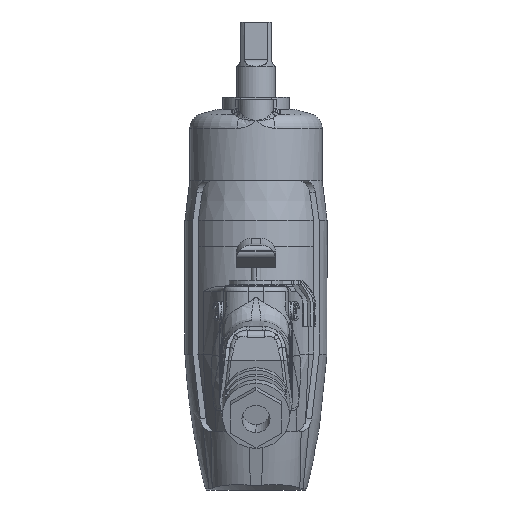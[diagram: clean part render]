
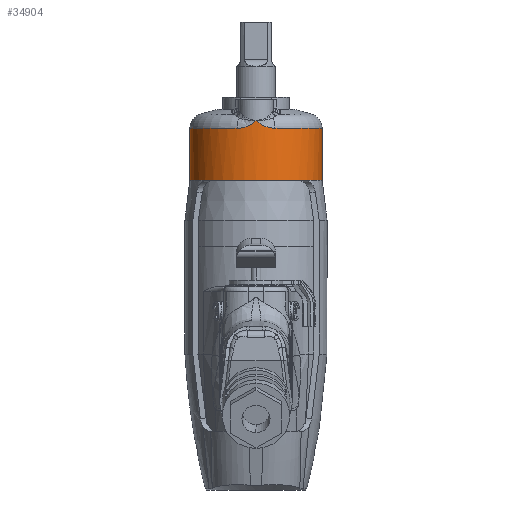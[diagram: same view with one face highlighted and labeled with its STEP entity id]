
A CAD part, front view. The second image highlights one B-rep face of the part: STEP entity #34904.
In plain terms, the highlighted cylindrical face has radius 27 mm (diameter 54 mm), a partial arc.
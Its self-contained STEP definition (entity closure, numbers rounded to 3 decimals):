
#392 = VERTEX_POINT ( 'NONE', #434 ) ;
#434 = CARTESIAN_POINT ( 'NONE',  ( 7.674, -25.886, -35.351 ) ) ;
#1314 = ORIENTED_EDGE ( 'NONE', *, *, #11314, .T. ) ;
#1485 = CARTESIAN_POINT ( 'NONE',  ( 1.12, -26.983, -33.17 ) ) ;
#3642 = EDGE_CURVE ( 'NONE', #16059, #392, #32485, .T. ) ;
#4606 = CARTESIAN_POINT ( 'NONE',  ( -3.931, -26.714, -34.664 ) ) ;
#4879 = CARTESIAN_POINT ( 'NONE',  ( 0., 0., -35.351 ) ) ;
#5690 = EDGE_CURVE ( 'NONE', #17164, #38976, #33186, .T. ) ;
#5910 = CARTESIAN_POINT ( 'NONE',  ( 7.674, -25.886, -35.351 ) ) ;
#6104 = CARTESIAN_POINT ( 'NONE',  ( 0., -27., -32.281 ) ) ;
#6216 = DIRECTION ( 'NONE',  ( 0., 0., 1. ) ) ;
#6702 = EDGE_LOOP ( 'NONE', ( #9139, #1314, #20864, #37239, #52283, #40648, #38603 ) ) ;
#9139 = ORIENTED_EDGE ( 'NONE', *, *, #50025, .F. ) ;
#9229 = CARTESIAN_POINT ( 'NONE',  ( -4.937, -26.547, -34.988 ) ) ;
#9533 = DIRECTION ( 'NONE',  ( 1., 0., 0. ) ) ;
#9626 = CARTESIAN_POINT ( 'NONE',  ( -27., 0., -22.7 ) ) ;
#10533 = CARTESIAN_POINT ( 'NONE',  ( 6.988, -26.082, -35.333 ) ) ;
#10538 = B_SPLINE_CURVE_WITH_KNOTS ( 'NONE', 3,
 ( #5910, #56458, #10533, #42799, #15202, #47381, #19855, #52026, #24505, #56655, #29128, #1485, #33751, #6104 ),
 .UNSPECIFIED., .F., .F.,
 ( 4, 2, 2, 2, 2, 2, 4 ),
 ( 0., 0.001, 0.002, 0.004, 0.005, 0.006, 0.009 ),
 .UNSPECIFIED. ) ;
#10955 = LINE ( 'NONE', #34985, #46281 ) ;
#11314 = EDGE_CURVE ( 'NONE', #41052, #44322, #13539, .T. ) ;
#12414 = B_SPLINE_CURVE_WITH_KNOTS ( 'NONE', 3,
 ( #23006, #54975, #27637, #33080, #32248, #4606, #36902, #9229, #41488, #13899, #46110, #18537 ),
 .UNSPECIFIED., .F., .F.,
 ( 4, 2, 2, 2, 2, 4 ),
 ( 0., 0.002, 0.004, 0.005, 0.006, 0.009 ),
 .UNSPECIFIED. ) ;
#13539 = CIRCLE ( 'NONE', #32242, 27. ) ;
#13899 = CARTESIAN_POINT ( 'NONE',  ( -6.297, -26.265, -35.28 ) ) ;
#15202 = CARTESIAN_POINT ( 'NONE',  ( 5.956, -26.337, -35.211 ) ) ;
#15361 = CARTESIAN_POINT ( 'NONE',  ( 0., 0., -22.7 ) ) ;
#16059 = VERTEX_POINT ( 'NONE', #48696 ) ;
#17164 = VERTEX_POINT ( 'NONE', #23849 ) ;
#18419 = EDGE_CURVE ( 'NONE', #44322, #16059, #10955, .T. ) ;
#18537 = CARTESIAN_POINT ( 'NONE',  ( -7.674, -25.886, -35.351 ) ) ;
#19855 = CARTESIAN_POINT ( 'NONE',  ( 4.263, -26.669, -34.8 ) ) ;
#19995 = DIRECTION ( 'NONE',  ( 1., 0., 0. ) ) ;
#20864 = ORIENTED_EDGE ( 'NONE', *, *, #18419, .T. ) ;
#23006 = CARTESIAN_POINT ( 'NONE',  ( 0., -27., -32.281 ) ) ;
#23849 = CARTESIAN_POINT ( 'NONE',  ( -7.674, -25.886, -35.351 ) ) ;
#24505 = CARTESIAN_POINT ( 'NONE',  ( 2.96, -26.839, -34.248 ) ) ;
#24684 = VERTEX_POINT ( 'NONE', #53556 ) ;
#25332 = DIRECTION ( 'NONE',  ( 0., 0., -1. ) ) ;
#25353 = CARTESIAN_POINT ( 'NONE',  ( -27., 0., -35.351 ) ) ;
#26711 = CARTESIAN_POINT ( 'NONE',  ( 0., 0., -56.589 ) ) ;
#27637 = CARTESIAN_POINT ( 'NONE',  ( -1.12, -26.983, -33.17 ) ) ;
#29128 = CARTESIAN_POINT ( 'NONE',  ( 2.023, -26.926, -33.742 ) ) ;
#31330 = DIRECTION ( 'NONE',  ( -1., 0., 0. ) ) ;
#32242 = AXIS2_PLACEMENT_3D ( 'NONE', #26711, #58859, #31330 ) ;
#32248 = CARTESIAN_POINT ( 'NONE',  ( -2.953, -26.846, -34.263 ) ) ;
#32485 = CIRCLE ( 'NONE', #55138, 27. ) ;
#33080 = CARTESIAN_POINT ( 'NONE',  ( -2.325, -26.907, -33.933 ) ) ;
#33186 = CIRCLE ( 'NONE', #43263, 27. ) ;
#33751 = CARTESIAN_POINT ( 'NONE',  ( 0.548, -27., -32.737 ) ) ;
#34904 = ADVANCED_FACE ( 'NONE', ( #38094 ), #48864, .T. ) ;
#34985 = CARTESIAN_POINT ( 'NONE',  ( 27., 0., -22.7 ) ) ;
#35461 = AXIS2_PLACEMENT_3D ( 'NONE', #15361, #47566, #19995 ) ;
#36902 = CARTESIAN_POINT ( 'NONE',  ( -4.264, -26.663, -34.784 ) ) ;
#37183 = DIRECTION ( 'NONE',  ( 0., 0., -1. ) ) ;
#37239 = ORIENTED_EDGE ( 'NONE', *, *, #3642, .T. ) ;
#38094 = FACE_OUTER_BOUND ( 'NONE', #6702, .T. ) ;
#38603 = ORIENTED_EDGE ( 'NONE', *, *, #5690, .T. ) ;
#38976 = VERTEX_POINT ( 'NONE', #25353 ) ;
#40648 = ORIENTED_EDGE ( 'NONE', *, *, #51056, .T. ) ;
#41052 = VERTEX_POINT ( 'NONE', #50171 ) ;
#41488 = CARTESIAN_POINT ( 'NONE',  ( -5.276, -26.482, -35.074 ) ) ;
#42799 = CARTESIAN_POINT ( 'NONE',  ( 6.301, -26.257, -35.263 ) ) ;
#43263 = AXIS2_PLACEMENT_3D ( 'NONE', #52839, #25332, #57470 ) ;
#44219 = LINE ( 'NONE', #9626, #54999 ) ;
#44322 = VERTEX_POINT ( 'NONE', #48616 ) ;
#45940 = EDGE_CURVE ( 'NONE', #392, #24684, #10538, .T. ) ;
#46110 = CARTESIAN_POINT ( 'NONE',  ( -6.988, -26.09, -35.351 ) ) ;
#46281 = VECTOR ( 'NONE', #48819, 1000. ) ;
#47381 = CARTESIAN_POINT ( 'NONE',  ( 4.931, -26.555, -35.004 ) ) ;
#47566 = DIRECTION ( 'NONE',  ( 0., 0., 1. ) ) ;
#48616 = CARTESIAN_POINT ( 'NONE',  ( 27., 0., -56.589 ) ) ;
#48696 = CARTESIAN_POINT ( 'NONE',  ( 27., 0., -35.351 ) ) ;
#48819 = DIRECTION ( 'NONE',  ( 0., 0., 1. ) ) ;
#48864 = CYLINDRICAL_SURFACE ( 'NONE', #35461, 27. ) ;
#50025 = EDGE_CURVE ( 'NONE', #41052, #38976, #44219, .T. ) ;
#50171 = CARTESIAN_POINT ( 'NONE',  ( -27., 0., -56.589 ) ) ;
#51056 = EDGE_CURVE ( 'NONE', #24684, #17164, #12414, .T. ) ;
#52026 = CARTESIAN_POINT ( 'NONE',  ( 3.283, -26.802, -34.399 ) ) ;
#52283 = ORIENTED_EDGE ( 'NONE', *, *, #45940, .T. ) ;
#52839 = CARTESIAN_POINT ( 'NONE',  ( 0., 0., -35.351 ) ) ;
#53556 = CARTESIAN_POINT ( 'NONE',  ( 0., -27., -32.281 ) ) ;
#54975 = CARTESIAN_POINT ( 'NONE',  ( -0.549, -27., -32.738 ) ) ;
#54999 = VECTOR ( 'NONE', #6216, 1000. ) ;
#55138 = AXIS2_PLACEMENT_3D ( 'NONE', #4879, #37183, #9533 ) ;
#56458 = CARTESIAN_POINT ( 'NONE',  ( 7.331, -25.988, -35.351 ) ) ;
#56655 = CARTESIAN_POINT ( 'NONE',  ( 2.331, -26.901, -33.92 ) ) ;
#57470 = DIRECTION ( 'NONE',  ( 1., 0., 0. ) ) ;
#58859 = DIRECTION ( 'NONE',  ( 0., 0., 1. ) ) ;
